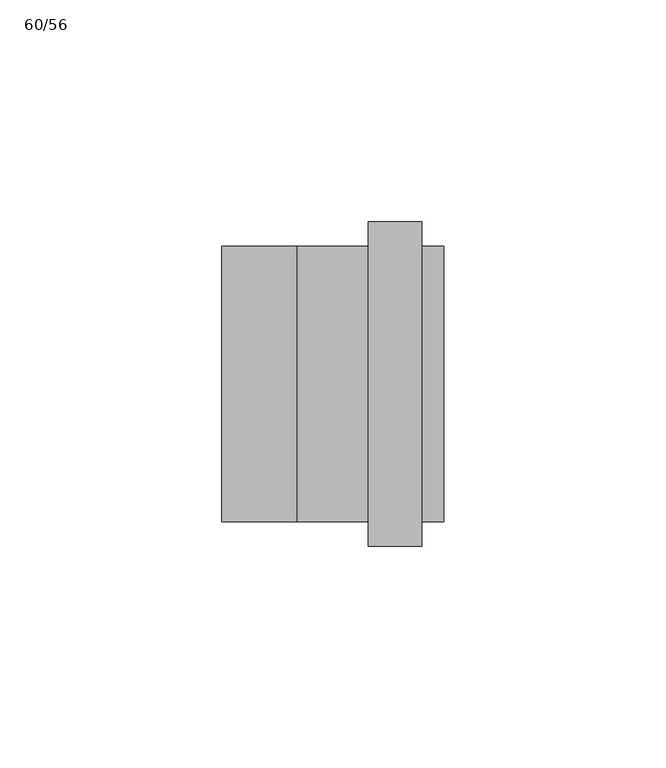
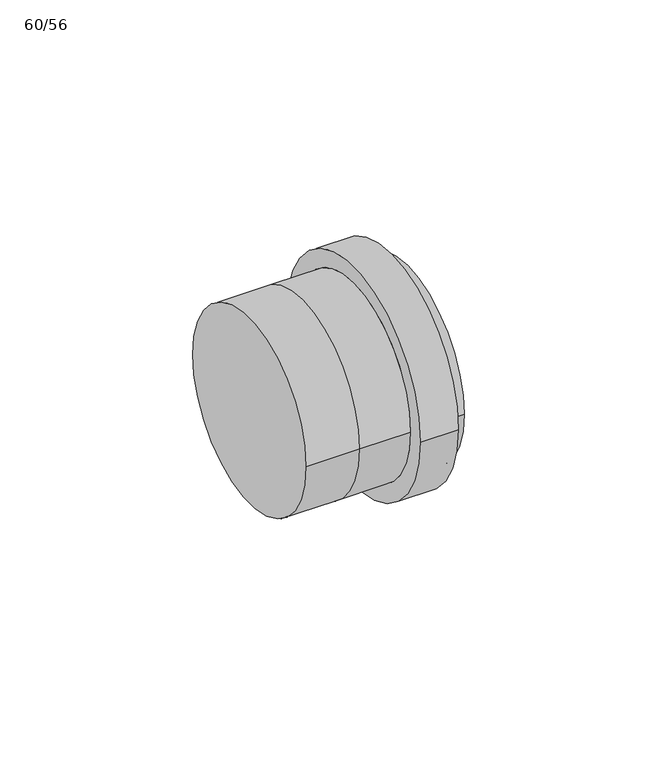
"""IFC4 building model written with IfcOpenShell, lengths in millimetres: pipe fitting geometry, Pipelife - VRD - Mufa z uszczelką redukcyjna : 60/56."""

from ifc_helpers import new_model, si_unit, frame, origin, place, context, project, spatial, polyline, circle_curve, source, transform, mapped, element, save
from ifc_brep_helpers import plane_surface, cylinder_surface, revolved_surface, advanced_brep


def pipe_fitting_60_56_4c1a00ec(model_context):
    return source(origin(), model_context, "Body", "AdvancedBrep", [
        advanced_brep(
        [(48.5, -31.0, 0.0), (48.5, 31.0, 0.0), (48.5, -28.0, 0.0), (48.5, 28.0, 0.0), (43.5, 31.0, 0.0), (43.5, -31.0, 0.0), (15.5, -31.0, 0.0), (31.5, -31.0, 0.0), (31.5, 31.0, 0.0), (15.5, 31.0, 0.0), (1.5, 28.0, 0.0), (1.5, -28.0, 0.0), (31.5, -36.5, 0.0), (31.5, 36.5, 0.0), (43.5, -36.5, 0.0), (43.5, 36.5, 0.0), (-1.5, -31.0, 0.0), (-1.5, 31.0, 0.0)],
        [
            (0, 1, circle_curve(frame((48.5, 0.0, 0.0), z_axis=(1.0, 0.0, 0.0), x_axis=(0.0, 1.0000000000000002, 0.0)), 31.0)),
            (1, 0, circle_curve(frame((48.5, 0.0, 0.0), z_axis=(1.0, 0.0, 0.0), x_axis=(0.0, 1.0000000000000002, 0.0)), 31.0)),
            (2, 3, circle_curve(frame((48.5, 0.0, 0.0), z_axis=(-1.0, 0.0, 0.0), x_axis=(0.0, -1.0000000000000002, 0.0)), 28.0)),
            (3, 2, circle_curve(frame((48.5, 0.0, 0.0), z_axis=(-1.0, 0.0, 0.0), x_axis=(0.0, -1.0000000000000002, 0.0)), 28.0)),
            (1, 4),
            (4, 5, circle_curve(frame((43.5, 0.0, 0.0), z_axis=(1.0, 0.0, 0.0), x_axis=(0.0, 1.0000000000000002, 0.0)), 31.0)),
            (5, 0),
            (6, 7),
            (7, 8, circle_curve(frame((31.5, 0.0, 0.0), z_axis=(-1.0, 0.0, 0.0), x_axis=(0.0, 1.0000000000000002, 0.0)), 31.0)),
            (8, 9),
            (9, 6, circle_curve(frame((15.5, 0.0, 0.0), z_axis=(1.0, 0.0, 0.0), x_axis=(0.0, 1.0000000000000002, 0.0)), 31.0)),
            (5, 4, circle_curve(frame((43.5, 0.0, 0.0), z_axis=(1.0, 0.0, 0.0), x_axis=(0.0, 1.0000000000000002, 0.0)), 31.0)),
            (6, 9, circle_curve(frame((15.5, 0.0, 0.0), z_axis=(1.0, 0.0, 0.0), x_axis=(0.0, 1.0000000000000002, 0.0)), 31.0)),
            (8, 7, circle_curve(frame((31.5, 0.0, 0.0), z_axis=(-1.0, 0.0, 0.0), x_axis=(0.0, 1.0000000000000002, 0.0)), 31.0)),
            (10, 11, circle_curve(frame((1.5, 0.0, 0.0), z_axis=(1.0, 0.0, 0.0), x_axis=(0.0, -1.0000000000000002, 0.0)), 28.0)),
            (11, 10, circle_curve(frame((1.5, 0.0, 0.0), z_axis=(1.0, 0.0, 0.0), x_axis=(0.0, -1.0000000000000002, 0.0)), 28.0)),
            (10, 3),
            (2, 11),
            (12, 13, circle_curve(frame((31.5, 0.0, 0.0), z_axis=(-1.0, 0.0, 0.0), x_axis=(0.0, 1.0000000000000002, 0.0)), 36.5)),
            (13, 12, circle_curve(frame((31.5, 0.0, 0.0), z_axis=(-1.0, 0.0, 0.0), x_axis=(0.0, 1.0000000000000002, 0.0)), 36.5)),
            (14, 15, circle_curve(frame((43.5, 0.0, 0.0), z_axis=(1.0, 0.0, 0.0), x_axis=(0.0, 1.0000000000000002, 0.0)), 36.5)),
            (15, 14, circle_curve(frame((43.5, 0.0, 0.0), z_axis=(1.0, 0.0, 0.0), x_axis=(0.0, 1.0000000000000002, 0.0)), 36.5)),
            (12, 14),
            (15, 13),
            (16, 17, circle_curve(frame((-1.5, 0.0, 0.0), z_axis=(-1.0, 0.0, 0.0), x_axis=(0.0, 1.0000000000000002, 0.0)), 31.0)),
            (17, 16, circle_curve(frame((-1.5, 0.0, 0.0), z_axis=(-1.0, 0.0, 0.0), x_axis=(0.0, 1.0000000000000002, 0.0)), 31.0)),
            (16, 6),
            (9, 17),
        ],
        [
            plane_surface(frame((48.5, 0.0, 0.0), z_axis=(1.0, 0.0, 0.0), x_axis=(0.0, 0.0, 1.0))),
            cylinder_surface(frame((15.5, 0.0, 0.0), z_axis=(-1.0000000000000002, 0.0, 0.0), x_axis=(0.0, 1.0000000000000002, 0.0)), 31.0),
            plane_surface(frame((1.5, 0.0, 0.0), z_axis=(1.0, 0.0, 0.0), x_axis=(0.0, 0.0, 1.0))),
            revolved_surface(polyline([(48.5, -28.000000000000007, 0.0), (1.4999999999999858, -28.000000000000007, 0.0)]), (48.5, 0.0, 0.0), (1.0000000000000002, 0.0, 0.0)),
            plane_surface(frame((31.5, 0.0, 0.0), z_axis=(-1.0, 0.0, 0.0), x_axis=(0.0, 0.0, 1.0))),
            plane_surface(frame((43.5, 0.0, 0.0), z_axis=(1.0, 0.0, 0.0), x_axis=(0.0, 0.0, 1.0))),
            cylinder_surface(frame((31.5, 0.0, 0.0), z_axis=(-1.0000000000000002, 0.0, 0.0), x_axis=(0.0, 1.0000000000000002, 0.0)), 36.5),
            plane_surface(frame((-1.5, 0.0, 0.0), z_axis=(-1.0, 0.0, 0.0), x_axis=(0.0, 0.0, 1.0))),
            cylinder_surface(frame((-1.5, 0.0, 0.0), z_axis=(-1.0000000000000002, 0.0, 0.0), x_axis=(0.0, 1.0000000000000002, 0.0)), 31.0),
        ],
        [
            (0, [[1, 2], [3, 4]]),
            (1, [[-2, 5, 6, 7]]),
            (1, [[8, 9, 10, 11]]),
            (1, [[-1, -7, 12, -5]]),
            (1, [[-8, 13, -10, 14]]),
            (2, [[15, 16]]),
            (3, [[-15, 17, -3, 18]]),
            (3, [[-16, -18, -4, -17]]),
            (4, [[19, 20], [-9, -14]]),
            (5, [[21, 22], [-6, -12]]),
            (6, [[-19, 23, -22, 24]]),
            (6, [[-20, -24, -21, -23]]),
            (7, [[25, 26]]),
            (8, [[-25, 27, -11, 28]]),
            (8, [[-26, -28, -13, -27]]),
        ],
    ),
    ])


if __name__ == "__main__":
    model = new_model("IFC4")
    model_context = context("Model", 3, world=origin())
    ifc_project = project(units=[si_unit("LENGTHUNIT", "METRE", prefix="MILLI")], contexts=[model_context])
    site = spatial("IfcSite", under=ifc_project)
    building = spatial("IfcBuilding", under=site)
    placement = place(None, origin())
    pipe_fitting_60_56_shape = pipe_fitting_60_56_4c1a00ec(model_context)
    element("IfcPipeFitting", 1, ObjectType="Pipelife - VRD - Mufa z uszczelką redukcyjna : 60/56", at=placement, inside=building, context=model_context, shape_type="MappedRepresentation", body=[
        mapped(pipe_fitting_60_56_shape, transform((0.0, 0.0, 0.0), x_axis=(1.0, 0.0, 0.0), y_axis=(0.0, 1.0, 0.0), z_axis=(0.0, 0.0, 1.0))),
    ])
    save(model, "model.ifc")
